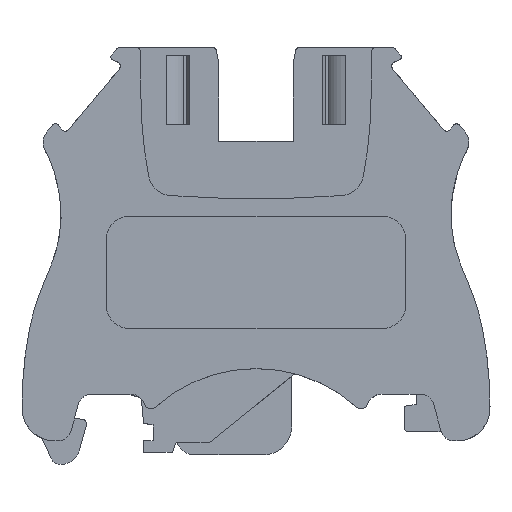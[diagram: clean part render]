
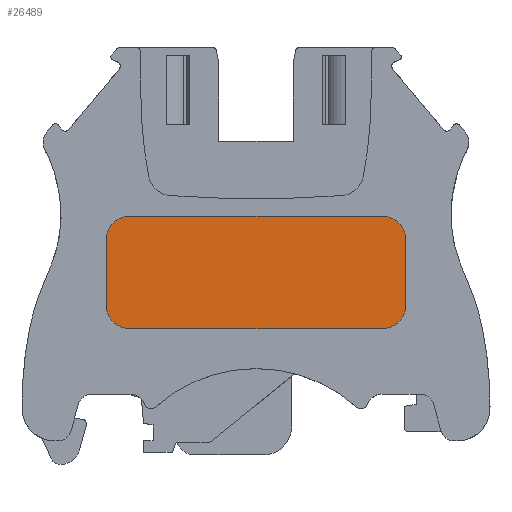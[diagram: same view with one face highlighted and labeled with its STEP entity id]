
A CAD part, top view. The second image highlights one B-rep face of the part: STEP entity #26489.
In plain terms, the highlighted planar face has unit normal (0, 0, 1).
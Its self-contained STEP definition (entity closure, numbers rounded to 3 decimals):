
#26489 = ADVANCED_FACE('',(#26490),#26505,.T.);
#26490 = FACE_BOUND('',#26491,.T.);
#26491 = EDGE_LOOP('',(#26492,#26520,#26536,#26557,#26573,#26594,#26610,
    #26631));
#26492 = ORIENTED_EDGE('',*,*,#26493,.F.);
#26493 = EDGE_CURVE('',#26494,#26496,#26498,.T.);
#26494 = VERTEX_POINT('',#26495);
#26495 = CARTESIAN_POINT('',(16.,14.5,3.15));
#26496 = VERTEX_POINT('',#26497);
#26497 = CARTESIAN_POINT('',(13.5,12.,3.15));
#26498 = SURFACE_CURVE('',#26499,(#26504),.PCURVE_S1.);
#26499 = CIRCLE('',#26500,2.5);
#26500 = AXIS2_PLACEMENT_3D('',#26501,#26502,#26503);
#26501 = CARTESIAN_POINT('',(13.5,14.5,3.15));
#26502 = DIRECTION('',(0.,0.,-1.));
#26503 = DIRECTION('',(1.,0.,0.));
#26504 = PCURVE('',#26505,#26510);
#26505 = PLANE('',#26506);
#26506 = AXIS2_PLACEMENT_3D('',#26507,#26508,#26509);
#26507 = CARTESIAN_POINT('',(-16.64,11.76,3.15));
#26508 = DIRECTION('',(0.,0.,1.));
#26509 = DIRECTION('',(-1.,0.,0.));
#26510 = DEFINITIONAL_REPRESENTATION('',(#26511),#26519);
#26511 = ( BOUNDED_CURVE() B_SPLINE_CURVE(2,(#26512,#26513,#26514,#26515
    ,#26516,#26517,#26518),.UNSPECIFIED.,.T.,.F.) 
B_SPLINE_CURVE_WITH_KNOTS((1,2,2,2,2,1),(-2.094,0.,
    2.094,4.189,6.283,8.378),
.UNSPECIFIED.) CURVE() GEOMETRIC_REPRESENTATION_ITEM() 
RATIONAL_B_SPLINE_CURVE((1.,0.5,1.,0.5,1.,0.5,1.)) REPRESENTATION_ITEM(
  '') );
#26512 = CARTESIAN_POINT('',(-32.64,-2.74));
#26513 = CARTESIAN_POINT('',(-32.64,1.59));
#26514 = CARTESIAN_POINT('',(-28.89,-0.575));
#26515 = CARTESIAN_POINT('',(-25.14,-2.74));
#26516 = CARTESIAN_POINT('',(-28.89,-4.905));
#26517 = CARTESIAN_POINT('',(-32.64,-7.07));
#26518 = CARTESIAN_POINT('',(-32.64,-2.74));
#26519 = ( GEOMETRIC_REPRESENTATION_CONTEXT(2) 
PARAMETRIC_REPRESENTATION_CONTEXT() REPRESENTATION_CONTEXT('2D SPACE',''
  ) );
#26520 = ORIENTED_EDGE('',*,*,#26521,.T.);
#26521 = EDGE_CURVE('',#26494,#26522,#26524,.T.);
#26522 = VERTEX_POINT('',#26523);
#26523 = CARTESIAN_POINT('',(16.,21.5,3.15));
#26524 = SURFACE_CURVE('',#26525,(#26529),.PCURVE_S1.);
#26525 = LINE('',#26526,#26527);
#26526 = CARTESIAN_POINT('',(16.,18.,3.15));
#26527 = VECTOR('',#26528,1.);
#26528 = DIRECTION('',(0.,1.,0.));
#26529 = PCURVE('',#26505,#26530);
#26530 = DEFINITIONAL_REPRESENTATION('',(#26531),#26535);
#26531 = LINE('',#26532,#26533);
#26532 = CARTESIAN_POINT('',(-32.64,-6.24));
#26533 = VECTOR('',#26534,1.);
#26534 = DIRECTION('',(0.,-1.));
#26535 = ( GEOMETRIC_REPRESENTATION_CONTEXT(2) 
PARAMETRIC_REPRESENTATION_CONTEXT() REPRESENTATION_CONTEXT('2D SPACE',''
  ) );
#26536 = ORIENTED_EDGE('',*,*,#26537,.F.);
#26537 = EDGE_CURVE('',#26538,#26522,#26540,.T.);
#26538 = VERTEX_POINT('',#26539);
#26539 = CARTESIAN_POINT('',(13.5,24.,3.15));
#26540 = SURFACE_CURVE('',#26541,(#26546),.PCURVE_S1.);
#26541 = CIRCLE('',#26542,2.5);
#26542 = AXIS2_PLACEMENT_3D('',#26543,#26544,#26545);
#26543 = CARTESIAN_POINT('',(13.5,21.5,3.15));
#26544 = DIRECTION('',(0.,0.,-1.));
#26545 = DIRECTION('',(1.,0.,0.));
#26546 = PCURVE('',#26505,#26547);
#26547 = DEFINITIONAL_REPRESENTATION('',(#26548),#26556);
#26548 = ( BOUNDED_CURVE() B_SPLINE_CURVE(2,(#26549,#26550,#26551,#26552
    ,#26553,#26554,#26555),.UNSPECIFIED.,.T.,.F.) 
B_SPLINE_CURVE_WITH_KNOTS((1,2,2,2,2,1),(-2.094,0.,
    2.094,4.189,6.283,8.378),
.UNSPECIFIED.) CURVE() GEOMETRIC_REPRESENTATION_ITEM() 
RATIONAL_B_SPLINE_CURVE((1.,0.5,1.,0.5,1.,0.5,1.)) REPRESENTATION_ITEM(
  '') );
#26549 = CARTESIAN_POINT('',(-32.64,-9.74));
#26550 = CARTESIAN_POINT('',(-32.64,-5.41));
#26551 = CARTESIAN_POINT('',(-28.89,-7.575));
#26552 = CARTESIAN_POINT('',(-25.14,-9.74));
#26553 = CARTESIAN_POINT('',(-28.89,-11.905));
#26554 = CARTESIAN_POINT('',(-32.64,-14.07));
#26555 = CARTESIAN_POINT('',(-32.64,-9.74));
#26556 = ( GEOMETRIC_REPRESENTATION_CONTEXT(2) 
PARAMETRIC_REPRESENTATION_CONTEXT() REPRESENTATION_CONTEXT('2D SPACE',''
  ) );
#26557 = ORIENTED_EDGE('',*,*,#26558,.T.);
#26558 = EDGE_CURVE('',#26538,#26559,#26561,.T.);
#26559 = VERTEX_POINT('',#26560);
#26560 = CARTESIAN_POINT('',(-13.5,24.,3.15));
#26561 = SURFACE_CURVE('',#26562,(#26566),.PCURVE_S1.);
#26562 = LINE('',#26563,#26564);
#26563 = CARTESIAN_POINT('',(0.,24.,3.15));
#26564 = VECTOR('',#26565,1.);
#26565 = DIRECTION('',(-1.,0.,0.));
#26566 = PCURVE('',#26505,#26567);
#26567 = DEFINITIONAL_REPRESENTATION('',(#26568),#26572);
#26568 = LINE('',#26569,#26570);
#26569 = CARTESIAN_POINT('',(-16.64,-12.24));
#26570 = VECTOR('',#26571,1.);
#26571 = DIRECTION('',(1.,0.));
#26572 = ( GEOMETRIC_REPRESENTATION_CONTEXT(2) 
PARAMETRIC_REPRESENTATION_CONTEXT() REPRESENTATION_CONTEXT('2D SPACE',''
  ) );
#26573 = ORIENTED_EDGE('',*,*,#26574,.F.);
#26574 = EDGE_CURVE('',#26575,#26559,#26577,.T.);
#26575 = VERTEX_POINT('',#26576);
#26576 = CARTESIAN_POINT('',(-16.,21.5,3.15));
#26577 = SURFACE_CURVE('',#26578,(#26583),.PCURVE_S1.);
#26578 = CIRCLE('',#26579,2.5);
#26579 = AXIS2_PLACEMENT_3D('',#26580,#26581,#26582);
#26580 = CARTESIAN_POINT('',(-13.5,21.5,3.15));
#26581 = DIRECTION('',(0.,0.,-1.));
#26582 = DIRECTION('',(1.,0.,0.));
#26583 = PCURVE('',#26505,#26584);
#26584 = DEFINITIONAL_REPRESENTATION('',(#26585),#26593);
#26585 = ( BOUNDED_CURVE() B_SPLINE_CURVE(2,(#26586,#26587,#26588,#26589
    ,#26590,#26591,#26592),.UNSPECIFIED.,.T.,.F.) 
B_SPLINE_CURVE_WITH_KNOTS((1,2,2,2,2,1),(-2.094,0.,
    2.094,4.189,6.283,8.378),
.UNSPECIFIED.) CURVE() GEOMETRIC_REPRESENTATION_ITEM() 
RATIONAL_B_SPLINE_CURVE((1.,0.5,1.,0.5,1.,0.5,1.)) REPRESENTATION_ITEM(
  '') );
#26586 = CARTESIAN_POINT('',(-5.64,-9.74));
#26587 = CARTESIAN_POINT('',(-5.64,-5.41));
#26588 = CARTESIAN_POINT('',(-1.89,-7.575));
#26589 = CARTESIAN_POINT('',(1.86,-9.74));
#26590 = CARTESIAN_POINT('',(-1.89,-11.905));
#26591 = CARTESIAN_POINT('',(-5.64,-14.07));
#26592 = CARTESIAN_POINT('',(-5.64,-9.74));
#26593 = ( GEOMETRIC_REPRESENTATION_CONTEXT(2) 
PARAMETRIC_REPRESENTATION_CONTEXT() REPRESENTATION_CONTEXT('2D SPACE',''
  ) );
#26594 = ORIENTED_EDGE('',*,*,#26595,.T.);
#26595 = EDGE_CURVE('',#26575,#26596,#26598,.T.);
#26596 = VERTEX_POINT('',#26597);
#26597 = CARTESIAN_POINT('',(-16.,14.5,3.15));
#26598 = SURFACE_CURVE('',#26599,(#26603),.PCURVE_S1.);
#26599 = LINE('',#26600,#26601);
#26600 = CARTESIAN_POINT('',(-16.,18.,3.15));
#26601 = VECTOR('',#26602,1.);
#26602 = DIRECTION('',(0.,-1.,0.));
#26603 = PCURVE('',#26505,#26604);
#26604 = DEFINITIONAL_REPRESENTATION('',(#26605),#26609);
#26605 = LINE('',#26606,#26607);
#26606 = CARTESIAN_POINT('',(-0.64,-6.24));
#26607 = VECTOR('',#26608,1.);
#26608 = DIRECTION('',(0.,1.));
#26609 = ( GEOMETRIC_REPRESENTATION_CONTEXT(2) 
PARAMETRIC_REPRESENTATION_CONTEXT() REPRESENTATION_CONTEXT('2D SPACE',''
  ) );
#26610 = ORIENTED_EDGE('',*,*,#26611,.F.);
#26611 = EDGE_CURVE('',#26612,#26596,#26614,.T.);
#26612 = VERTEX_POINT('',#26613);
#26613 = CARTESIAN_POINT('',(-13.5,12.,3.15));
#26614 = SURFACE_CURVE('',#26615,(#26620),.PCURVE_S1.);
#26615 = CIRCLE('',#26616,2.5);
#26616 = AXIS2_PLACEMENT_3D('',#26617,#26618,#26619);
#26617 = CARTESIAN_POINT('',(-13.5,14.5,3.15));
#26618 = DIRECTION('',(0.,0.,-1.));
#26619 = DIRECTION('',(1.,0.,0.));
#26620 = PCURVE('',#26505,#26621);
#26621 = DEFINITIONAL_REPRESENTATION('',(#26622),#26630);
#26622 = ( BOUNDED_CURVE() B_SPLINE_CURVE(2,(#26623,#26624,#26625,#26626
    ,#26627,#26628,#26629),.UNSPECIFIED.,.T.,.F.) 
B_SPLINE_CURVE_WITH_KNOTS((1,2,2,2,2,1),(-2.094,0.,
    2.094,4.189,6.283,8.378),
.UNSPECIFIED.) CURVE() GEOMETRIC_REPRESENTATION_ITEM() 
RATIONAL_B_SPLINE_CURVE((1.,0.5,1.,0.5,1.,0.5,1.)) REPRESENTATION_ITEM(
  '') );
#26623 = CARTESIAN_POINT('',(-5.64,-2.74));
#26624 = CARTESIAN_POINT('',(-5.64,1.59));
#26625 = CARTESIAN_POINT('',(-1.89,-0.575));
#26626 = CARTESIAN_POINT('',(1.86,-2.74));
#26627 = CARTESIAN_POINT('',(-1.89,-4.905));
#26628 = CARTESIAN_POINT('',(-5.64,-7.07));
#26629 = CARTESIAN_POINT('',(-5.64,-2.74));
#26630 = ( GEOMETRIC_REPRESENTATION_CONTEXT(2) 
PARAMETRIC_REPRESENTATION_CONTEXT() REPRESENTATION_CONTEXT('2D SPACE',''
  ) );
#26631 = ORIENTED_EDGE('',*,*,#26632,.T.);
#26632 = EDGE_CURVE('',#26612,#26496,#26633,.T.);
#26633 = SURFACE_CURVE('',#26634,(#26638),.PCURVE_S1.);
#26634 = LINE('',#26635,#26636);
#26635 = CARTESIAN_POINT('',(0.,12.,3.15));
#26636 = VECTOR('',#26637,1.);
#26637 = DIRECTION('',(1.,0.,0.));
#26638 = PCURVE('',#26505,#26639);
#26639 = DEFINITIONAL_REPRESENTATION('',(#26640),#26644);
#26640 = LINE('',#26641,#26642);
#26641 = CARTESIAN_POINT('',(-16.64,-0.24));
#26642 = VECTOR('',#26643,1.);
#26643 = DIRECTION('',(-1.,0.));
#26644 = ( GEOMETRIC_REPRESENTATION_CONTEXT(2) 
PARAMETRIC_REPRESENTATION_CONTEXT() REPRESENTATION_CONTEXT('2D SPACE',''
  ) );
